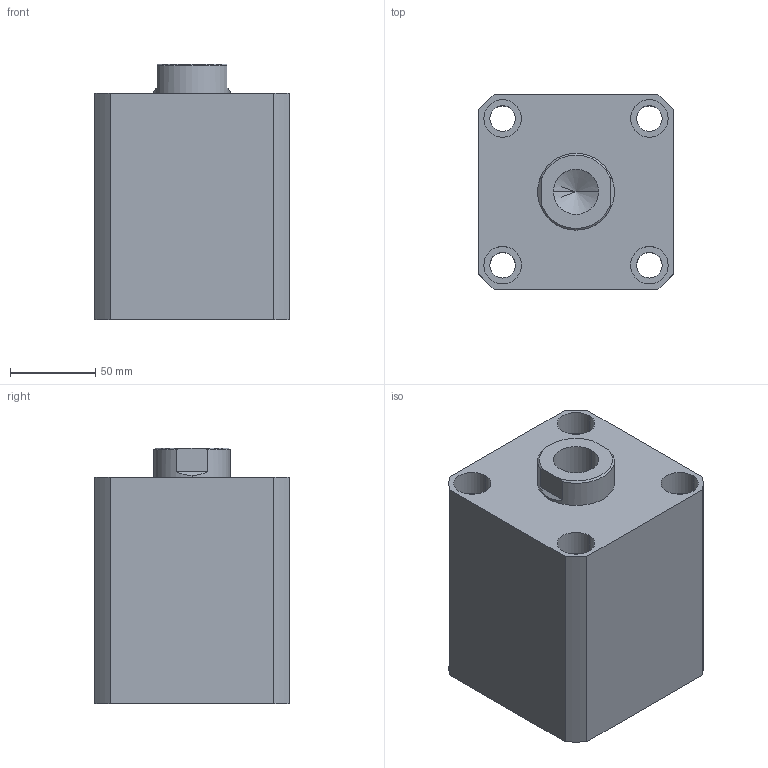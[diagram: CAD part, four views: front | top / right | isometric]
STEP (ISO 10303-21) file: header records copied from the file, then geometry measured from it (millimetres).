
FILE_DESCRIPTION (( 'STEP AP203' ), '1' );
FILE_NAME ('HTB-SDMB80-55N.STEP', '2019-10-09T06:06:52', ( '微软用户' ), ( '微软中国' ), 'SwSTEP 2.0', 'SolidWorks 2012', '' );
FILE_SCHEMA (( 'CONFIG_CONTROL_DESIGN' ));
Length unit declared in the file: millimetre
Products named in the file (3): HTB-SDMB80-55掛极; HTB-SDMB80-55N活塞杆; HTB-SDMB80-55N
Assembly tree (2 placements, depth 2):
  HTB-SDMB80-55N
    HTB-SDMB80-55掛极
    HTB-SDMB80-55N活塞杆
Bounding box: 114 x 114 x 150 mm (x, y, z)
Volume: 1403177.7 mm3; surface area: 178985.3 mm2
Topology: 2 solids, 2 shells, 137 faces, 331 edges, 217 vertices
Faces by surface type: plane 65, cylinder 46, bspline 16, torus 6, cone 4
Entity records: 5070 total; most frequent: CARTESIAN_POINT 1576, ORIENTED_EDGE 658, DIRECTION 647, EDGE_CURVE 329, AXIS2_PLACEMENT_3D 232, VERTEX_POINT 217, LINE 183, VECTOR 183
